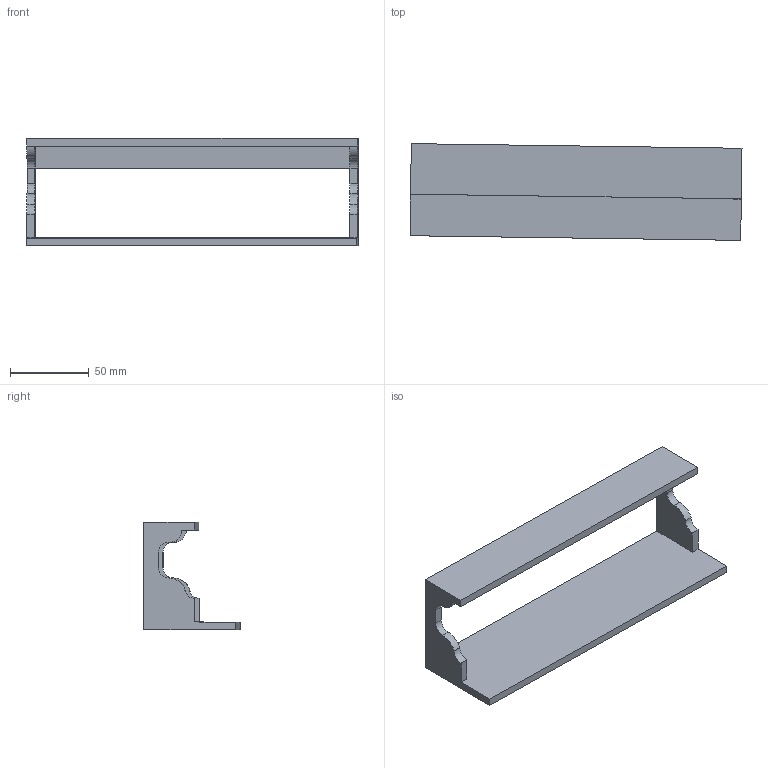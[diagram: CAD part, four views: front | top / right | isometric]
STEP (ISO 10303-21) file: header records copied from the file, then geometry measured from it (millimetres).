
FILE_DESCRIPTION(/* description */ (''),/* implementation_level */ '2;1');
FILE_NAME(/* name */ 'Original Enlarged Green Frame from 06 project 95 from 05 Project Four Fingers etc.step',/* time_stamp */ '2026-07-05T19:14:08-04:00',/* author */ (''),/* organization */ (''),/* preprocessor_version */ 'ST-DEVELOPER v20.1',/* originating_system */ 'Autodesk Translation Framework v15.8.0.0',/* authorisation */ '');
FILE_SCHEMA (('AUTOMOTIVE_DESIGN { 1 0 10303 214 3 1 1 }'));
Length unit declared in the file: millimetre
Products named in the file (1): 2026-07-05-19-14-08-297
Bounding box: 211.3 x 61.43 x 68.55 mm (x, y, z)
Volume: 121743.8 mm3; surface area: 54488.1 mm2
Topology: 1 solids, 1 shells, 27 faces, 78 edges, 52 vertices
Faces by surface type: plane 17, cylinder 10
Entity records: 929 total; most frequent: CARTESIAN_POINT 158, ORIENTED_EDGE 156, DIRECTION 154, EDGE_CURVE 78, LINE 58, VECTOR 58, VERTEX_POINT 52, AXIS2_PLACEMENT_3D 48
